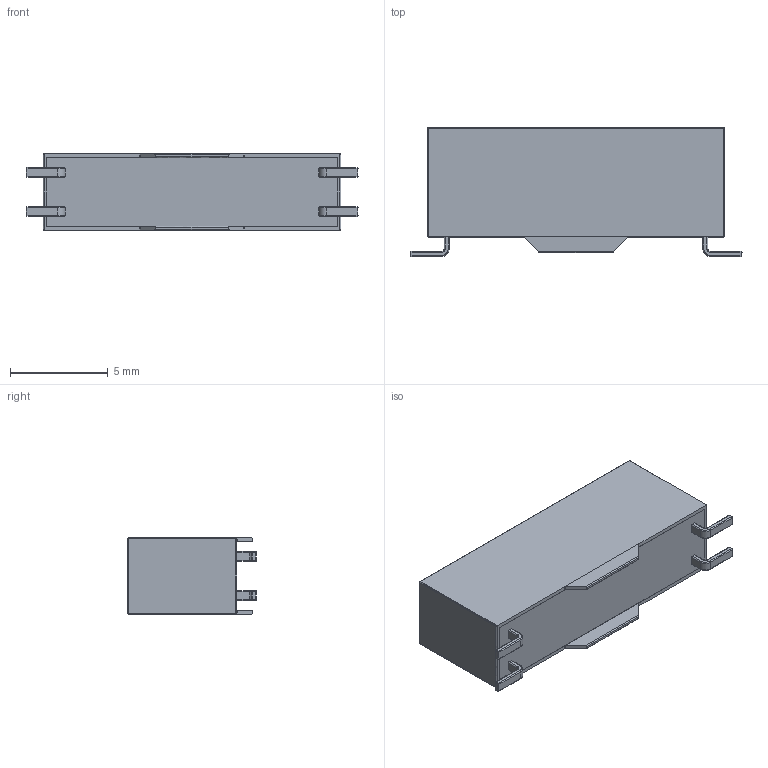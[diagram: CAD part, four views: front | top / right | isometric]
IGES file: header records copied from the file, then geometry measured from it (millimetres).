
Start section: SolidWorks IGES file using analytic representation for surfaces
Global section: file name: T:\Relays in Solidworks\Batch 1\200-1-A.IGS; native system: SolidWorks 2009; preprocessor: SolidWorks 2009; author: alex.leming; date: 100629.122819; units: inch
Bounding box: 17 x 6.6 x 3.9 mm (x, y, z)
Surface area: 863 mm2 (no closed solid volume)
Topology: 0 solids, 0 shells, 421 faces, 2974 edges, 2952 vertices
Faces by surface type: bspline 305, revolution 116
